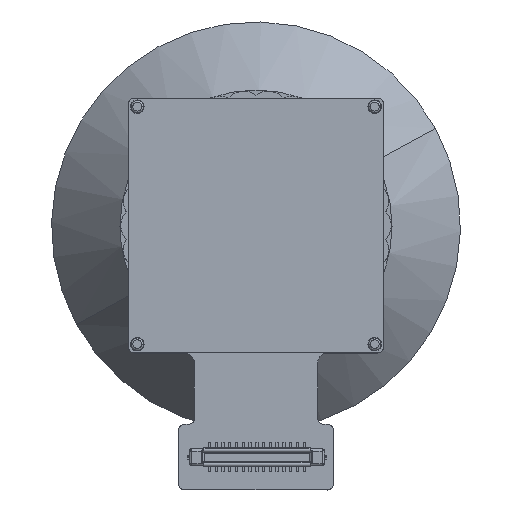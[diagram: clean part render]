
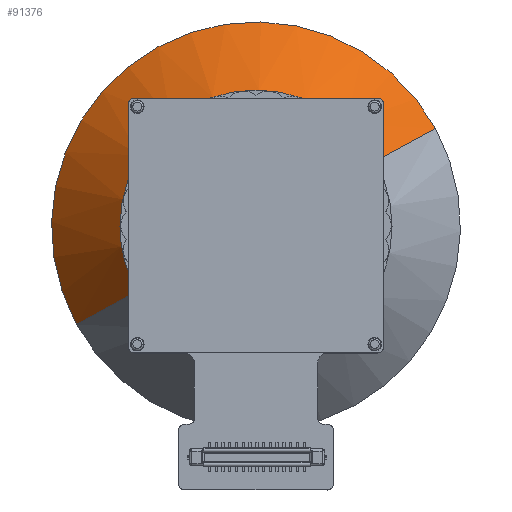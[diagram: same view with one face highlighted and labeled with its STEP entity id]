
A CAD part, top view. The second image highlights one B-rep face of the part: STEP entity #91376.
In plain terms, the highlighted conical face has half-angle 40.5 degrees and reference radius 0 mm.
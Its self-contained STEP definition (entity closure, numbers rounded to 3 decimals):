
#91348=AXIS2_PLACEMENT_3D('Cone Axis2P3D',#91345,#91346,#91347) ;
#91361=AXIS2_PLACEMENT_3D('Circle Axis2P3D',#91359,#91360,$) ;
#91345=CARTESIAN_POINT('Axis2P3D Location',(0.,0.,-17.407)) ;
#91350=CARTESIAN_POINT('Line Origine',(4.647,2.539,-23.607)) ;
#91354=CARTESIAN_POINT('Vertex',(0.,0.,-17.407)) ;
#91356=CARTESIAN_POINT('Vertex',(9.294,5.077,-29.807)) ;
#91359=CARTESIAN_POINT('Axis2P3D Location',(0.,0.,-29.807)) ;
#91363=CARTESIAN_POINT('Vertex',(-9.294,-5.077,-29.807)) ;
#91366=CARTESIAN_POINT('Line Origine',(-4.647,-2.539,-23.607)) ;
#91346=DIRECTION('Axis2P3D Direction',(0.,0.,-1.)) ;
#91347=DIRECTION('Axis2P3D XDirection',(0.878,0.479,0.)) ;
#91351=DIRECTION('Vector Direction',(0.57,0.311,-0.76)) ;
#91360=DIRECTION('Axis2P3D Direction',(0.,0.,-1.)) ;
#91367=DIRECTION('Vector Direction',(-0.57,-0.311,-0.76)) ;
#91352=VECTOR('Line Direction',#91351,1.) ;
#91368=VECTOR('Line Direction',#91367,1.) ;
#91372=ORIENTED_EDGE('',*,*,#91358,.T.) ;
#91373=ORIENTED_EDGE('',*,*,#91365,.T.) ;
#91374=ORIENTED_EDGE('',*,*,#91370,.F.) ;
#91376=ADVANCED_FACE('\X2\65CB8F6C66F29762\X0\.1',(#91375),#91349,.T.) ;
#91362=CIRCLE('generated circle',#91361,10.591) ;
#91349=CONICAL_SURFACE('Cone',#91348,0.,0.707) ;
#91358=EDGE_CURVE('',#91355,#91357,#91353,.T.) ;
#91365=EDGE_CURVE('',#91357,#91364,#91362,.F.) ;
#91370=EDGE_CURVE('',#91355,#91364,#91369,.T.) ;
#91371=EDGE_LOOP('',(#91372,#91373,#91374)) ;
#91375=FACE_OUTER_BOUND('',#91371,.T.) ;
#91353=LINE('Line',#91350,#91352) ;
#91369=LINE('Line',#91366,#91368) ;
#91355=VERTEX_POINT('',#91354) ;
#91357=VERTEX_POINT('',#91356) ;
#91364=VERTEX_POINT('',#91363) ;
